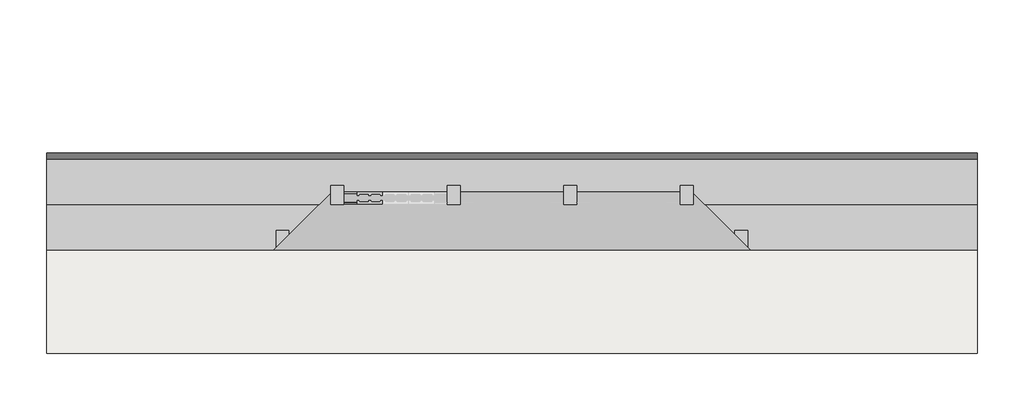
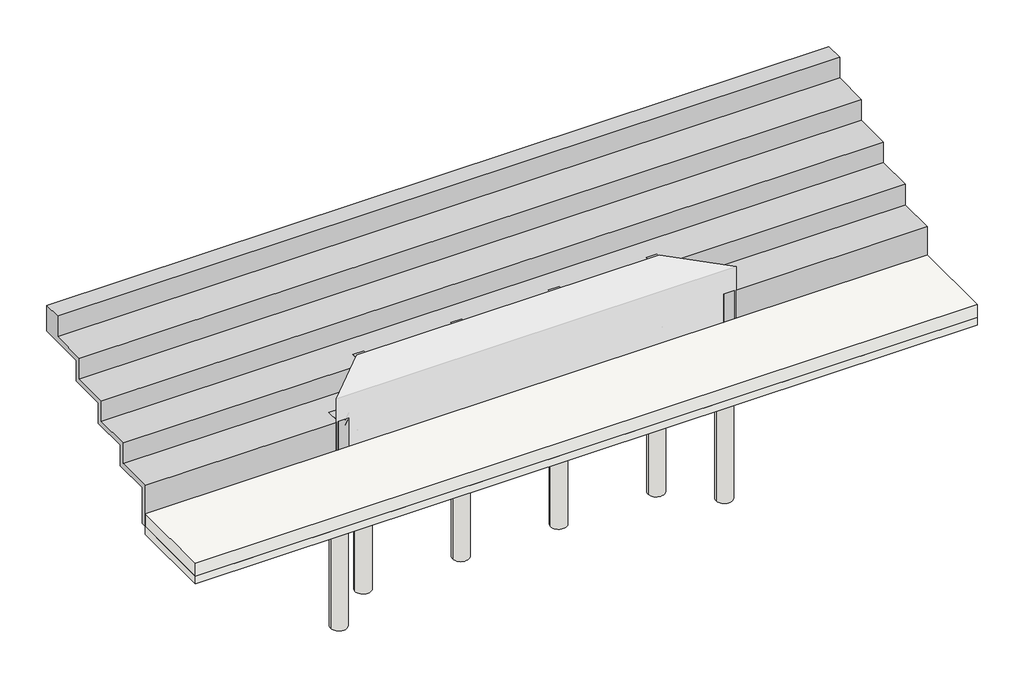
# One storey, part 1 of 3: 29 proxies, 8 slabs, 6 columns, 1 stair.
"""IFC4 building model written with IfcOpenShell, lengths in millimetres."""

from ifc_helpers import new_model, si_unit, point, frame, frame_2d, origin, origin_with_axes, place, context, project, spatial, polyline, circle_curve, trimmed, segment, composite_curve, outline, extrude, faceted_brep, transform, mapped, element, save
from components import generic_models_a9bd6234, generic_models_79be39f6, generic_models_7627f778, bloco_de_concreto_meio_ecf0463e

model = new_model("IFC4")

# Units and contexts
model_context = context("Model", 3, world=origin())
ifc_project = project(units=[si_unit("LENGTHUNIT", "METRE", prefix="MILLI")], contexts=[model_context])

# Site, building, storey
site = spatial("IfcSite", under=ifc_project)
building = spatial("IfcBuilding", under=site)
storey = spatial("IfcBuildingStorey", under=building, Name="Nível 1", Elevation=0.0)

# Proxies
placement = place(None, origin())
generic_models_shape = generic_models_a9bd6234(model_context)
element("IfcBuildingElementProxy", 1, Name="Bloco de Concreto - Meia Canaleta : Família 20 x 40 - Classe A", ObjectType="Bloco de Concreto - Meia Canaleta : Família 20 x 40 - Classe A", at=placement, inside=storey, context=model_context, shape_type="MappedRepresentation", body=[
    mapped(generic_models_shape, transform((-50.8594989, 2294.2310134, 610.0), x_axis=(-0.7067862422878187, -0.7074271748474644, 0.0), y_axis=(0.7074271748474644, -0.7067862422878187, 0.0), z_axis=(0.0, 0.0, 1.0))),
])
element("IfcBuildingElementProxy", 2, Name="Bloco de Concreto - Meia Canaleta : Família 20 x 40 - Classe A", ObjectType="Bloco de Concreto - Meia Canaleta : Família 20 x 40 - Classe A", at=placement, inside=storey, context=model_context, shape_type="MappedRepresentation", body=[
    mapped(generic_models_shape, transform((-471.5239259, 1873.4383999, 610.0), x_axis=(-0.7067862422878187, -0.7074271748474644, 0.0), y_axis=(0.7074271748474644, -0.7067862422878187, 0.0), z_axis=(0.0, 0.0, 1.0))),
])
element("IfcBuildingElementProxy", 3, Name="Bloco de Concreto - Meia Canaleta : Família 20 x 40 - Classe A", ObjectType="Bloco de Concreto - Meia Canaleta : Família 20 x 40 - Classe A", at=placement, inside=storey, context=model_context, shape_type="MappedRepresentation", body=[
    mapped(generic_models_shape, transform((344.5531607, 2445.7417523, 1010.0), x_axis=(-1.0, 0.0, 0.0), y_axis=(0.0, -1.0, 0.0), z_axis=(0.0, 0.0, 1.0))),
])
generic_models_2_shape = generic_models_79be39f6(model_context)
element("IfcBuildingElementProxy", 4, Name="Bloco de Concreto - Inteiro : Família 20 x 40 - Classe A", ObjectType="Bloco de Concreto - Inteiro : Família 20 x 40 - Classe A", at=placement, inside=storey, context=model_context, shape_type="MappedRepresentation", body=[
    mapped(generic_models_2_shape, transform((-121.5381231, 2223.488296, 10.0), x_axis=(0.706786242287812, 0.7074271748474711, 0.0), y_axis=(-0.7074271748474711, 0.706786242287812, 0.0), z_axis=(0.0, 0.0, 1.0))),
])
element("IfcBuildingElementProxy", 5, Name="Bloco de Concreto - Inteiro : Família 20 x 40 - Classe A", ObjectType="Bloco de Concreto - Inteiro : Família 20 x 40 - Classe A", at=placement, inside=storey, context=model_context, shape_type="MappedRepresentation", body=[
    mapped(generic_models_2_shape, transform((-400.8453017, 1944.1811174, 10.0), x_axis=(0.706786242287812, 0.7074271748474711, 0.0), y_axis=(-0.7074271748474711, 0.706786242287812, 0.0), z_axis=(0.0, 0.0, 1.0))),
])
element("IfcBuildingElementProxy", 6, Name="Bloco de Concreto - Inteiro : Família 20 x 40 - Classe A", ObjectType="Bloco de Concreto - Inteiro : Família 20 x 40 - Classe A", at=placement, inside=storey, context=model_context, shape_type="MappedRepresentation", body=[
    mapped(generic_models_2_shape, transform((444.5531607, 2445.7417523, 10.0), x_axis=(1.0, 0.0, 0.0), y_axis=(0.0, 1.0, 0.0), z_axis=(0.0, 0.0, 1.0))),
])
element("IfcBuildingElementProxy", 7, Name="Bloco de Concreto - Inteiro : Família 20 x 40 - Classe A", ObjectType="Bloco de Concreto - Inteiro : Família 20 x 40 - Classe A", at=placement, inside=storey, context=model_context, shape_type="MappedRepresentation", body=[
    mapped(generic_models_2_shape, transform((844.5531607, 2445.7417523, 10.0), x_axis=(1.0, 0.0, 0.0), y_axis=(0.0, 1.0, 0.0), z_axis=(0.0, 0.0, 1.0))),
])
element("IfcBuildingElementProxy", 8, Name="Bloco de Concreto - Inteiro : Família 20 x 40 - Classe A", ObjectType="Bloco de Concreto - Inteiro : Família 20 x 40 - Classe A", at=placement, inside=storey, context=model_context, shape_type="MappedRepresentation", body=[
    mapped(generic_models_2_shape, transform((1244.5531607, 2445.7417523, 10.0), x_axis=(1.0, 0.0, 0.0), y_axis=(0.0, 1.0, 0.0), z_axis=(0.0, 0.0, 1.0))),
])
element("IfcBuildingElementProxy", 9, Name="Bloco de Concreto - Inteiro : Família 20 x 40 - Classe A", ObjectType="Bloco de Concreto - Inteiro : Família 20 x 40 - Classe A", at=placement, inside=storey, context=model_context, shape_type="MappedRepresentation", body=[
    mapped(generic_models_2_shape, transform((1644.5531607, 2445.7417523, 10.0), x_axis=(1.0, 0.0, 0.0), y_axis=(0.0, 1.0, 0.0), z_axis=(0.0, 0.0, 1.0))),
])
element("IfcBuildingElementProxy", 10, Name="Bloco de Concreto - Inteiro : Família 20 x 40 - Classe A", ObjectType="Bloco de Concreto - Inteiro : Família 20 x 40 - Classe A", at=placement, inside=storey, context=model_context, shape_type="MappedRepresentation", body=[
    mapped(generic_models_2_shape, transform((-259.3918698, 2085.570456, 210.0), x_axis=(-0.7067862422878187, -0.7074271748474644, 0.0), y_axis=(0.7074271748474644, -0.7067862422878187, 0.0), z_axis=(0.0, 0.0, 1.0))),
])
element("IfcBuildingElementProxy", 11, Name="Bloco de Concreto - Inteiro : Família 20 x 40 - Classe A", ObjectType="Bloco de Concreto - Inteiro : Família 20 x 40 - Classe A", at=placement, inside=storey, context=model_context, shape_type="MappedRepresentation", body=[
    mapped(generic_models_2_shape, transform((-121.5381231, 2223.488296, 410.0), x_axis=(0.706786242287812, 0.7074271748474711, 0.0), y_axis=(-0.7074271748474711, 0.706786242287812, 0.0), z_axis=(0.0, 0.0, 1.0))),
])
element("IfcBuildingElementProxy", 12, Name="Bloco de Concreto - Inteiro : Família 20 x 40 - Classe A", ObjectType="Bloco de Concreto - Inteiro : Família 20 x 40 - Classe A", at=placement, inside=storey, context=model_context, shape_type="MappedRepresentation", body=[
    mapped(generic_models_2_shape, transform((-400.8453017, 1944.1811174, 410.0), x_axis=(0.706786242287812, 0.7074271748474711, 0.0), y_axis=(-0.7074271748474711, 0.706786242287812, 0.0), z_axis=(0.0, 0.0, 1.0))),
])
element("IfcBuildingElementProxy", 13, Name="Bloco de Concreto - Inteiro : Família 20 x 40 - Classe A", ObjectType="Bloco de Concreto - Inteiro : Família 20 x 40 - Classe A", at=placement, inside=storey, context=model_context, shape_type="MappedRepresentation", body=[
    mapped(generic_models_2_shape, transform((644.5531607, 2445.7417523, 210.0), x_axis=(1.0, 0.0, 0.0), y_axis=(0.0, 1.0, 0.0), z_axis=(0.0, 0.0, 1.0))),
])
element("IfcBuildingElementProxy", 14, Name="Bloco de Concreto - Inteiro : Família 20 x 40 - Classe A", ObjectType="Bloco de Concreto - Inteiro : Família 20 x 40 - Classe A", at=placement, inside=storey, context=model_context, shape_type="MappedRepresentation", body=[
    mapped(generic_models_2_shape, transform((1044.5531607, 2445.7417523, 210.0), x_axis=(1.0, 0.0, 0.0), y_axis=(0.0, 1.0, 0.0), z_axis=(0.0, 0.0, 1.0))),
])
element("IfcBuildingElementProxy", 15, Name="Bloco de Concreto - Inteiro : Família 20 x 40 - Classe A", ObjectType="Bloco de Concreto - Inteiro : Família 20 x 40 - Classe A", at=placement, inside=storey, context=model_context, shape_type="MappedRepresentation", body=[
    mapped(generic_models_2_shape, transform((1444.5531607, 2445.7417523, 210.0), x_axis=(1.0, 0.0, 0.0), y_axis=(0.0, 1.0, 0.0), z_axis=(0.0, 0.0, 1.0))),
])
element("IfcBuildingElementProxy", 16, Name="Bloco de Concreto - Inteiro : Família 20 x 40 - Classe A", ObjectType="Bloco de Concreto - Inteiro : Família 20 x 40 - Classe A", at=placement, inside=storey, context=model_context, shape_type="MappedRepresentation", body=[
    mapped(generic_models_2_shape, transform((644.5531607, 2445.7417523, 610.0), x_axis=(1.0, 0.0, 0.0), y_axis=(0.0, 1.0, 0.0), z_axis=(0.0, 0.0, 1.0))),
])
element("IfcBuildingElementProxy", 17, Name="Bloco de Concreto - Inteiro : Família 20 x 40 - Classe A", ObjectType="Bloco de Concreto - Inteiro : Família 20 x 40 - Classe A", at=placement, inside=storey, context=model_context, shape_type="MappedRepresentation", body=[
    mapped(generic_models_2_shape, transform((444.5531607, 2445.7417523, 810.0), x_axis=(1.0, 0.0, 0.0), y_axis=(0.0, 1.0, 0.0), z_axis=(0.0, 0.0, 1.0))),
])
element("IfcBuildingElementProxy", 18, Name="Bloco de Concreto - Inteiro : Família 20 x 40 - Classe A", ObjectType="Bloco de Concreto - Inteiro : Família 20 x 40 - Classe A", at=placement, inside=storey, context=model_context, shape_type="MappedRepresentation", body=[
    mapped(generic_models_2_shape, transform((844.5531607, 2445.7417523, 810.0), x_axis=(1.0, 0.0, 0.0), y_axis=(0.0, 1.0, 0.0), z_axis=(0.0, 0.0, 1.0))),
])
generic_models_3_shape = generic_models_7627f778(model_context)
element("IfcBuildingElementProxy", 19, Name="Bloco de Concreto - Canaleta Inteira : Família 20 x 40 - Classe A", ObjectType="Bloco de Concreto - Canaleta Inteira : Família 20 x 40 - Classe A", at=placement, inside=storey, context=model_context, shape_type="MappedRepresentation", body=[
    mapped(generic_models_3_shape, transform((-259.3918698, 2085.570456, 610.0), x_axis=(-0.7067862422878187, -0.7074271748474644, 0.0), y_axis=(0.7074271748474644, -0.7067862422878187, 0.0), z_axis=(0.0, 0.0, 1.0))),
])
element("IfcBuildingElementProxy", 20, Name="Bloco de Concreto - Canaleta Inteira : Família 20 x 40 - Classe A", ObjectType="Bloco de Concreto - Canaleta Inteira : Família 20 x 40 - Classe A", at=placement, inside=storey, context=model_context, shape_type="MappedRepresentation", body=[
    mapped(generic_models_3_shape, transform((444.5531607, 2445.7417523, 410.0), x_axis=(1.0, 0.0, 0.0), y_axis=(0.0, 1.0, 0.0), z_axis=(0.0, 0.0, 1.0))),
])
element("IfcBuildingElementProxy", 21, Name="Bloco de Concreto - Canaleta Inteira : Família 20 x 40 - Classe A", ObjectType="Bloco de Concreto - Canaleta Inteira : Família 20 x 40 - Classe A", at=placement, inside=storey, context=model_context, shape_type="MappedRepresentation", body=[
    mapped(generic_models_3_shape, transform((844.5531607, 2445.7417523, 410.0), x_axis=(1.0, 0.0, 0.0), y_axis=(0.0, 1.0, 0.0), z_axis=(0.0, 0.0, 1.0))),
])
element("IfcBuildingElementProxy", 22, Name="Bloco de Concreto - Canaleta Inteira : Família 20 x 40 - Classe A", ObjectType="Bloco de Concreto - Canaleta Inteira : Família 20 x 40 - Classe A", at=placement, inside=storey, context=model_context, shape_type="MappedRepresentation", body=[
    mapped(generic_models_3_shape, transform((1244.5531607, 2445.7417523, 410.0), x_axis=(1.0, 0.0, 0.0), y_axis=(0.0, 1.0, 0.0), z_axis=(0.0, 0.0, 1.0))),
])
element("IfcBuildingElementProxy", 23, Name="Bloco de Concreto - Canaleta Inteira : Família 20 x 40 - Classe A", ObjectType="Bloco de Concreto - Canaleta Inteira : Família 20 x 40 - Classe A", at=placement, inside=storey, context=model_context, shape_type="MappedRepresentation", body=[
    mapped(generic_models_3_shape, transform((1644.5531607, 2445.7417523, 410.0), x_axis=(1.0, 0.0, 0.0), y_axis=(0.0, 1.0, 0.0), z_axis=(0.0, 0.0, 1.0))),
])
element("IfcBuildingElementProxy", 24, Name="Bloco de Concreto - Canaleta Inteira : Família 20 x 40 - Classe A", ObjectType="Bloco de Concreto - Canaleta Inteira : Família 20 x 40 - Classe A", at=placement, inside=storey, context=model_context, shape_type="MappedRepresentation", body=[
    mapped(generic_models_3_shape, transform((644.5531607, 2445.7417523, 1010.0), x_axis=(1.0, 0.0, 0.0), y_axis=(0.0, 1.0, 0.0), z_axis=(0.0, 0.0, 1.0))),
])
bloco_de_concreto_meio_shape = bloco_de_concreto_meio_ecf0463e(model_context)
element("IfcBuildingElementProxy", 25, Name="Bloco de Concreto - Meio : Família 20 x 40 - Classe A", ObjectType="Bloco de Concreto - Meio : Família 20 x 40 - Classe A", at=placement, inside=storey, context=model_context, shape_type="MappedRepresentation", body=[
    mapped(bloco_de_concreto_meio_shape, transform((-50.8594989, 2294.2310134, 210.0), x_axis=(-0.7067862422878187, -0.7074271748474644, 0.0), y_axis=(0.7074271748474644, -0.7067862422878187, 0.0), z_axis=(0.0, 0.0, 1.0))),
])
element("IfcBuildingElementProxy", 26, Name="Bloco de Concreto - Meio : Família 20 x 40 - Classe A", ObjectType="Bloco de Concreto - Meio : Família 20 x 40 - Classe A", at=placement, inside=storey, context=model_context, shape_type="MappedRepresentation", body=[
    mapped(bloco_de_concreto_meio_shape, transform((-471.5239259, 1873.4383999, 210.0), x_axis=(-0.7067862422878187, -0.7074271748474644, 0.0), y_axis=(0.7074271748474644, -0.7067862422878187, 0.0), z_axis=(0.0, 0.0, 1.0))),
])
element("IfcBuildingElementProxy", 27, Name="Bloco de Concreto - Meio : Família 20 x 40 - Classe A", ObjectType="Bloco de Concreto - Meio : Família 20 x 40 - Classe A", at=placement, inside=storey, context=model_context, shape_type="MappedRepresentation", body=[
    mapped(bloco_de_concreto_meio_shape, transform((344.5531607, 2445.7417523, 210.0), x_axis=(-1.0, 0.0, 0.0), y_axis=(0.0, -1.0, 0.0), z_axis=(0.0, 0.0, 1.0))),
])
element("IfcBuildingElementProxy", 28, Name="Bloco de Concreto - Meio : Família 20 x 40 - Classe A", ObjectType="Bloco de Concreto - Meio : Família 20 x 40 - Classe A", at=placement, inside=storey, context=model_context, shape_type="MappedRepresentation", body=[
    mapped(bloco_de_concreto_meio_shape, transform((1744.5531607, 2445.7417523, 210.0), x_axis=(-1.0, 0.0, 0.0), y_axis=(0.0, -1.0, 0.0), z_axis=(0.0, 0.0, 1.0))),
])
element("IfcBuildingElementProxy", 29, Name="Bloco de Concreto - Meio : Família 20 x 40 - Classe A", ObjectType="Bloco de Concreto - Meio : Família 20 x 40 - Classe A", at=placement, inside=storey, context=model_context, shape_type="MappedRepresentation", body=[
    mapped(bloco_de_concreto_meio_shape, transform((344.5531607, 2445.7417523, 610.0), x_axis=(-1.0, 0.0, 0.0), y_axis=(0.0, -1.0, 0.0), z_axis=(0.0, 0.0, 1.0))),
])

# Columns
element("IfcColumn", 30, ObjectType="M_Concreto-Retangular-Coluna1 : 20x30", at=placement, inside=storey, context=model_context, shape_type="Brep", body=[
    faceted_brep([(244.5531607, 2640.7417523, -300.0), (244.5531607, 2340.7417523, -300.0), (143.9189572, 2340.7417523, -300.0), (44.5531607, 2340.7417523, -300.0), (44.5531607, 2640.7417523, -300.0), (244.5531607, 2640.7417523, 1200.0), (244.5531607, 2340.7417523, 1200.0), (244.5531607, 2340.7417523, 0.0), (244.5531607, 2640.7417523, 0.0), (44.5531607, 2340.7417523, 1200.0), (44.5531607, 2340.7417523, 0.0), (44.5531607, 2640.7417523, 1200.0), (44.5531607, 2640.7417523, 0.0)], [[[0, 1, 2, 3, 4]], [[5, 6, 7, 1, 0, 8]], [[6, 9, 10, 3, 2, 1, 7]], [[9, 11, 12, 4, 3, 10]], [[11, 5, 8, 0, 4, 12]], [[5, 11, 9, 6]]]),
])
element("IfcColumn", 31, ObjectType="M_Concreto-Retangular-Coluna1 : 20x30", at=placement, inside=storey, context=model_context, shape_type="Brep", body=[
    faceted_brep([(-605.4468393, 1940.7417523, -300.0), (-605.4468393, 1690.7925484, -300.0), (-605.4468393, 1640.7417523, -300.0), (-805.4468393, 1640.7417523, -300.0), (-805.4468393, 1940.7417523, -300.0), (-679.7905604, 1940.7417523, -300.0), (-605.4468393, 1940.7417523, 0.0), (-605.4468393, 1940.7417523, 800.0), (-605.4468393, 1640.7417523, 800.0), (-605.4468393, 1640.7417523, 250.0), (-605.4468393, 1640.7417523, 0.0), (-605.4468393, 1640.7417523, -150.0), (-805.4468393, 1640.7417523, 800.0), (-805.4468393, 1640.7417523, 250.0), (-805.4468393, 1640.7417523, 0.0), (-805.4468393, 1640.7417523, -150.0), (-805.4468393, 1940.7417523, 800.0)], [[[0, 1, 2, 3, 4, 5]], [[2, 1, 0, 6, 7, 8, 9, 10, 11]], [[3, 2, 11, 10, 9, 8, 12, 13, 14, 15]], [[4, 3, 15, 14, 13, 12, 16]], [[0, 5, 4, 16, 7, 6]], [[8, 7, 16, 12]]]),
])
element("IfcColumn", 32, ObjectType="M_Concreto-Retangular-Coluna1 : 20x30", at=placement, inside=storey, context=model_context, shape_type="Brep", body=[
    faceted_brep([(5644.5531607, 2640.7417523, -300.0), (5644.5531607, 2340.7417523, -300.0), (5542.0229516, 2340.7417523, -300.0), (5444.5531607, 2340.7417523, -300.0), (5444.5531607, 2640.7417523, -300.0), (5644.5531607, 2640.7417523, 1200.0), (5644.5531607, 2340.7417523, 1200.0), (5644.5531607, 2340.7417523, 0.0), (5644.5531607, 2640.7417523, 0.0), (5444.5531607, 2340.7417523, 1200.0), (5444.5531607, 2340.7417523, 0.0), (5444.5531607, 2640.7417523, 1200.0), (5444.5531607, 2640.7417523, 0.0)], [[[0, 1, 2, 3, 4]], [[5, 6, 7, 1, 0, 8]], [[6, 9, 10, 3, 2, 1, 7]], [[9, 11, 12, 4, 3, 10]], [[11, 5, 8, 0, 4, 12]], [[5, 11, 9, 6]]]),
])
element("IfcColumn", 33, ObjectType="M_Concreto-Retangular-Coluna1 : 20x30", at=placement, inside=storey, context=model_context, shape_type="Brep", body=[
    faceted_brep([(6492.0229516, 1940.7417523, -300.0), (6492.0229516, 1640.7417523, -300.0), (6292.0229516, 1640.7417523, -300.0), (6292.0229516, 1690.7417523, -300.0), (6292.0229516, 1940.7417523, -300.0), (6366.2870203, 1940.7417523, -300.0), (6492.0229516, 1940.7417523, 800.0), (6492.0229516, 1640.7417523, 800.0), (6492.0229516, 1640.7417523, 250.0), (6492.0229516, 1640.7417523, 0.0), (6492.0229516, 1640.7417523, -150.0), (6292.0229516, 1640.7417523, 800.0), (6292.0229516, 1640.7417523, 250.0), (6292.0229516, 1640.7417523, 0.0), (6292.0229516, 1640.7417523, -150.0), (6292.0229516, 1940.7417523, 800.0), (6292.0229516, 1940.7417523, 0.0)], [[[0, 1, 2, 3, 4, 5]], [[1, 0, 6, 7, 8, 9, 10]], [[2, 1, 10, 9, 8, 7, 11, 12, 13, 14]], [[4, 3, 2, 14, 13, 12, 11, 15, 16]], [[0, 5, 4, 16, 15, 6]], [[7, 6, 15, 11]]]),
])
element("IfcColumn", 34, ObjectType="M_Concreto-Retangular-Coluna1 : 20x30", at=placement, inside=storey, context=model_context, shape_type="Brep", body=[
    faceted_brep([(3844.5531607, 2640.7417523, -300.0), (3844.5531607, 2340.7417523, -300.0), (3644.5531607, 2340.7417523, -300.0), (3644.5531607, 2640.7417523, -300.0), (3844.5531607, 2640.7417523, 1200.0), (3844.5531607, 2340.7417523, 1200.0), (3844.5531607, 2340.7417523, 0.0), (3844.5531607, 2640.7417523, 0.0), (3644.5531607, 2340.7417523, 1200.0), (3644.5531607, 2340.7417523, 0.0), (3644.5531607, 2640.7417523, 1200.0), (3644.5531607, 2640.7417523, 0.0)], [[[0, 1, 2, 3]], [[4, 5, 6, 1, 0, 7]], [[5, 8, 9, 2, 1, 6]], [[8, 10, 11, 3, 2, 9]], [[10, 4, 7, 0, 3, 11]], [[4, 10, 8, 5]]]),
])
element("IfcColumn", 35, ObjectType="M_Concreto-Retangular-Coluna1 : 20x30", at=placement, inside=storey, context=model_context, shape_type="Brep", body=[
    faceted_brep([(2044.5531607, 2640.7417523, -300.0), (2044.5531607, 2340.7417523, -300.0), (1844.5531607, 2340.7417523, -300.0), (1844.5531607, 2640.7417523, -300.0), (2044.5531607, 2640.7417523, 1200.0), (2044.5531607, 2340.7417523, 1200.0), (2044.5531607, 2340.7417523, 0.0), (2044.5531607, 2640.7417523, 0.0), (1844.5531607, 2340.7417523, 1200.0), (1844.5531607, 2340.7417523, 0.0), (1844.5531607, 2640.7417523, 1200.0), (1844.5531607, 2640.7417523, 0.0)], [[[0, 1, 2, 3]], [[4, 5, 6, 1, 0, 7]], [[5, 8, 9, 2, 1, 6]], [[8, 10, 11, 3, 2, 9]], [[10, 4, 7, 0, 3, 11]], [[4, 10, 8, 5]]]),
])

# Slabs
element("IfcSlab", 36, ObjectType="Genérico 250 mm", at=placement, inside=storey, context=model_context, shape_type="SweptSolid", body=[
    extrude(outline(polyline([(-555.4468393, 1640.7417523), (143.9189572, 2340.7417523), (5542.0229516, 2340.7417523), (6242.0229516, 1640.7417523), (10044.5531607, 1640.7417523), (10044.5531607, 40.7417523), (-4355.4468393, 40.7417523), (-4355.4468393, 1640.7417523), (-555.4468393, 1640.7417523)])), origin_with_axes(), (0.0, 0.0, 1.0), 250.0),
])
element("IfcSlab", 37, ObjectType="Estaca de concreto : EST30-3m", at=placement, inside=storey, context=model_context, shape_type="SweptSolid", body=[
    extrude(outline(composite_curve([segment(trimmed(circle_curve(frame_2d((144.5531607, 2490.7417523)), 150.0), [point((-5.4468393, 2490.7417523))], [point((294.5531607, 2490.7417523))], False, "CARTESIAN"), True, "CONTINUOUS"), segment(trimmed(circle_curve(frame_2d((144.5531607, 2490.7417523)), 150.0), [point((294.5531607, 2490.7417523))], [point((-5.4468393, 2490.7417523))], False, "CARTESIAN"), True, "CONTINUOUS")], self_intersect=False)), frame((0.0, 0.0, -3300.0), z_axis=(0.0, 0.0, 1.0), x_axis=(1.0, 0.0, 0.0)), (0.0, 0.0, 1.0), 3000.0),
])
element("IfcSlab", 38, ObjectType="Estaca de concreto : EST30-3m", at=placement, inside=storey, context=model_context, shape_type="SweptSolid", body=[
    extrude(outline(composite_curve([segment(trimmed(circle_curve(frame_2d((5544.5531607, 2490.7417523)), 150.0), [point((5394.5531607, 2490.7417523))], [point((5694.5531607, 2490.7417523))], False, "CARTESIAN"), True, "CONTINUOUS"), segment(trimmed(circle_curve(frame_2d((5544.5531607, 2490.7417523)), 150.0), [point((5694.5531607, 2490.7417523))], [point((5394.5531607, 2490.7417523))], False, "CARTESIAN"), True, "CONTINUOUS")], self_intersect=False)), frame((0.0, 0.0, -3300.0), z_axis=(0.0, 0.0, 1.0), x_axis=(1.0, 0.0, 0.0)), (0.0, 0.0, 1.0), 3000.0),
])
element("IfcSlab", 39, ObjectType="Estaca de concreto : EST30-3m", at=placement, inside=storey, context=model_context, shape_type="SweptSolid", body=[
    extrude(outline(composite_curve([segment(trimmed(circle_curve(frame_2d((6392.0229516, 1790.7417523)), 150.0), [point((6242.0229516, 1790.7417523))], [point((6542.0229516, 1790.7417523))], False, "CARTESIAN"), True, "CONTINUOUS"), segment(trimmed(circle_curve(frame_2d((6392.0229516, 1790.7417523)), 150.0), [point((6542.0229516, 1790.7417523))], [point((6242.0229516, 1790.7417523))], False, "CARTESIAN"), True, "CONTINUOUS")], self_intersect=False)), frame((0.0, 0.0, -3300.0), z_axis=(0.0, 0.0, 1.0), x_axis=(1.0, 0.0, 0.0)), (0.0, 0.0, 1.0), 3000.0),
])
element("IfcSlab", 40, ObjectType="Estaca de concreto : EST30-3m", at=placement, inside=storey, context=model_context, shape_type="SweptSolid", body=[
    extrude(outline(composite_curve([segment(trimmed(circle_curve(frame_2d((-705.4468393, 1790.7417523)), 150.0), [point((-855.4468393, 1790.7417523))], [point((-555.4468393, 1790.7417523))], False, "CARTESIAN"), True, "CONTINUOUS"), segment(trimmed(circle_curve(frame_2d((-705.4468393, 1790.7417523)), 150.0), [point((-555.4468393, 1790.7417523))], [point((-855.4468393, 1790.7417523))], False, "CARTESIAN"), True, "CONTINUOUS")], self_intersect=False)), frame((0.0, 0.0, -3300.0), z_axis=(0.0, 0.0, 1.0), x_axis=(1.0, 0.0, 0.0)), (0.0, 0.0, 1.0), 3000.0),
])
element("IfcSlab", 41, ObjectType="Estaca de concreto : EST30-3m", at=placement, inside=storey, context=model_context, shape_type="SweptSolid", body=[
    extrude(outline(composite_curve([segment(trimmed(circle_curve(frame_2d((3744.5531607, 2490.7417523)), 150.0), [point((3594.5531607, 2490.7417523))], [point((3894.5531607, 2490.7417523))], False, "CARTESIAN"), True, "CONTINUOUS"), segment(trimmed(circle_curve(frame_2d((3744.5531607, 2490.7417523)), 150.0), [point((3894.5531607, 2490.7417523))], [point((3594.5531607, 2490.7417523))], False, "CARTESIAN"), True, "CONTINUOUS")], self_intersect=False)), frame((0.0, 0.0, -3300.0), z_axis=(0.0, 0.0, 1.0), x_axis=(1.0, 0.0, 0.0)), (0.0, 0.0, 1.0), 3000.0),
])
element("IfcSlab", 42, ObjectType="Estaca de concreto : EST30-3m", at=placement, inside=storey, context=model_context, shape_type="SweptSolid", body=[
    extrude(outline(composite_curve([segment(trimmed(circle_curve(frame_2d((1944.5531607, 2490.7417523)), 150.0), [point((1794.5531607, 2490.7417523))], [point((2094.5531607, 2490.7417523))], False, "CARTESIAN"), True, "CONTINUOUS"), segment(trimmed(circle_curve(frame_2d((1944.5531607, 2490.7417523)), 150.0), [point((2094.5531607, 2490.7417523))], [point((1794.5531607, 2490.7417523))], False, "CARTESIAN"), True, "CONTINUOUS")], self_intersect=False)), frame((0.0, 0.0, -3300.0), z_axis=(0.0, 0.0, 1.0), x_axis=(1.0, 0.0, 0.0)), (0.0, 0.0, 1.0), 3000.0),
])
element("IfcSlab", 43, ObjectType="piso 15", at=placement, inside=storey, context=model_context, shape_type="Brep", body=[
    faceted_brep([(-4355.4468393, 1640.7417523, -150.0), (-555.4468393, 1640.7417523, -150.0), (143.9189572, 2340.7417523, -150.0), (5542.0229516, 2340.7417523, -150.0), (6242.0229516, 1640.7417523, -150.0), (10044.5531607, 1640.7417523, -150.0), (10044.5531607, 40.7417523, -150.0), (-4355.4468393, 40.7417523, -150.0), (-4355.4468393, 1640.7417523, 0.0), (-4355.4468393, 40.7417523, 0.0), (10044.5531607, 40.7417523, 0.0), (10044.5531607, 1640.7417523, 0.0), (6242.0229516, 1640.7417523, 0.0), (5542.0229516, 2340.7417523, 0.0), (5444.5531607, 2340.7417523, 0.0), (3844.5531607, 2340.7417523, 0.0), (3644.5531607, 2340.7417523, 0.0), (2044.5531607, 2340.7417523, 0.0), (1844.5531607, 2340.7417523, 0.0), (244.5531607, 2340.7417523, 0.0), (143.9189572, 2340.7417523, 0.0), (-555.4468393, 1640.7417523, 0.0)], [[[0, 1, 2, 3, 4, 5, 6, 7]], [[8, 9, 10, 11, 12, 13, 14, 15, 16, 17, 18, 19, 20, 21]], [[6, 5, 11, 10]], [[7, 6, 10, 9]], [[0, 7, 9, 8]], [[1, 0, 8, 21]], [[2, 1, 21, 20]], [[3, 2, 20, 19, 18, 17, 16, 15, 14, 13]], [[4, 3, 13, 12]], [[5, 4, 12, 11]]]),
])

# Stair
element("IfcStair", 44, ObjectType="Escadas 1 : Escadas 1", at=placement, inside=storey, context=model_context, shape_type="Brep", body=[
    faceted_brep([(-4355.4468393, 3740.7417523, 2000.0), (-4355.4468393, 4440.7417523, 2000.0), (-4355.4468393, 4440.7417523, 2400.0), (-4355.4468393, 4790.7417523, 2400.0), (-4355.4468393, 4790.7417523, 1900.0), (-4355.4468393, 3840.7417523, 1900.0), (-4355.4468393, 3840.7417523, 1500.0), (-4355.4468393, 3140.7417523, 1500.0), (-4355.4468393, 3140.7417523, 1100.0), (-4355.4468393, 2440.7417523, 1100.0), (-4355.4468393, 2440.7417523, 700.0), (-4355.4468393, 1740.7417523, 700.0), (-4355.4468393, 1740.7417523, 0.0), (-4355.4468393, 1640.7417523, 0.0), (-4355.4468393, 1640.7417523, 800.0), (-4355.4468393, 2340.7417523, 800.0), (-4355.4468393, 2340.7417523, 1200.0), (-4355.4468393, 3040.7417523, 1200.0), (-4355.4468393, 3040.7417523, 1600.0), (-4355.4468393, 3740.7417523, 1600.0), (10044.5531607, 3740.7417523, 2000.0), (10044.5531607, 3740.7417523, 1600.0), (10044.5531607, 3040.7417523, 1600.0), (10044.5531607, 3040.7417523, 1200.0), (10044.5531607, 2340.7417523, 1200.0), (10044.5531607, 2340.7417523, 800.0), (10044.5531607, 1640.7417523, 800.0), (10044.5531607, 1640.7417523, 0.0), (10044.5531607, 1740.7417523, 0.0), (10044.5531607, 1740.7417523, 700.0), (10044.5531607, 2440.7417523, 700.0), (10044.5531607, 2440.7417523, 1100.0), (10044.5531607, 3140.7417523, 1100.0), (10044.5531607, 3140.7417523, 1500.0), (10044.5531607, 3840.7417523, 1500.0), (10044.5531607, 3840.7417523, 1900.0), (10044.5531607, 4790.7417523, 1900.0), (10044.5531607, 4790.7417523, 2400.0), (10044.5531607, 4440.7417523, 2400.0), (10044.5531607, 4440.7417523, 2000.0), (5727.2816225, 2440.7417523, 1100.0), (5627.2816225, 2540.7417523, 1100.0), (61.1384588, 2540.7417523, 1100.0), (-38.7709407, 2440.7417523, 1100.0), (-38.7709407, 2440.7417523, 700.0), (-738.1367372, 1740.7417523, 700.0), (-738.1367372, 1740.7417523, 0.0), (-838.0461367, 1640.7417523, 0.0), (-838.0461367, 1640.7417523, 800.0), (-138.6803402, 2340.7417523, 800.0), (-138.6803402, 2340.7417523, 1200.0), (61.1384588, 2540.7417523, 1200.0), (5627.2816225, 2540.7417523, 1200.0), (5827.2816225, 2340.7417523, 1200.0), (5727.2816225, 2440.7417523, 700.0), (6427.2816225, 1740.7417523, 700.0), (6427.2816225, 1740.7417523, 0.0), (6527.2816225, 1640.7417523, 0.0), (6527.2816225, 1640.7417523, 800.0), (5827.2816225, 2340.7417523, 800.0)], [[[0, 1, 2, 3, 4, 5, 6, 7, 8, 9, 10, 11, 12, 13, 14, 15, 16, 17, 18, 19]], [[20, 21, 22, 23, 24, 25, 26, 27, 28, 29, 30, 31, 32, 33, 34, 35, 36, 37, 38, 39]], [[1, 0, 20, 39]], [[2, 1, 39, 38]], [[3, 2, 38, 37]], [[4, 3, 37, 36]], [[5, 4, 36, 35]], [[6, 5, 35, 34]], [[7, 6, 34, 33]], [[8, 7, 33, 32]], [[9, 8, 32, 31, 40, 41, 42, 43]], [[10, 9, 43, 44]], [[11, 10, 44, 45]], [[12, 11, 45, 46]], [[13, 12, 46, 47]], [[14, 13, 47, 48]], [[15, 14, 48, 49]], [[16, 15, 49, 50]], [[17, 16, 50, 51, 52, 53, 24, 23]], [[18, 17, 23, 22]], [[19, 18, 22, 21]], [[0, 19, 21, 20]], [[41, 52, 51, 42]], [[42, 51, 50, 49, 48, 47, 46, 45, 44, 43]], [[52, 41, 40, 54, 55, 56, 57, 58, 59, 53]], [[29, 28, 56, 55]], [[28, 27, 57, 56]], [[27, 26, 58, 57]], [[26, 25, 59, 58]], [[31, 30, 54, 40]], [[30, 29, 55, 54]], [[25, 24, 53, 59]]]),
])

save(model, "model.ifc")
